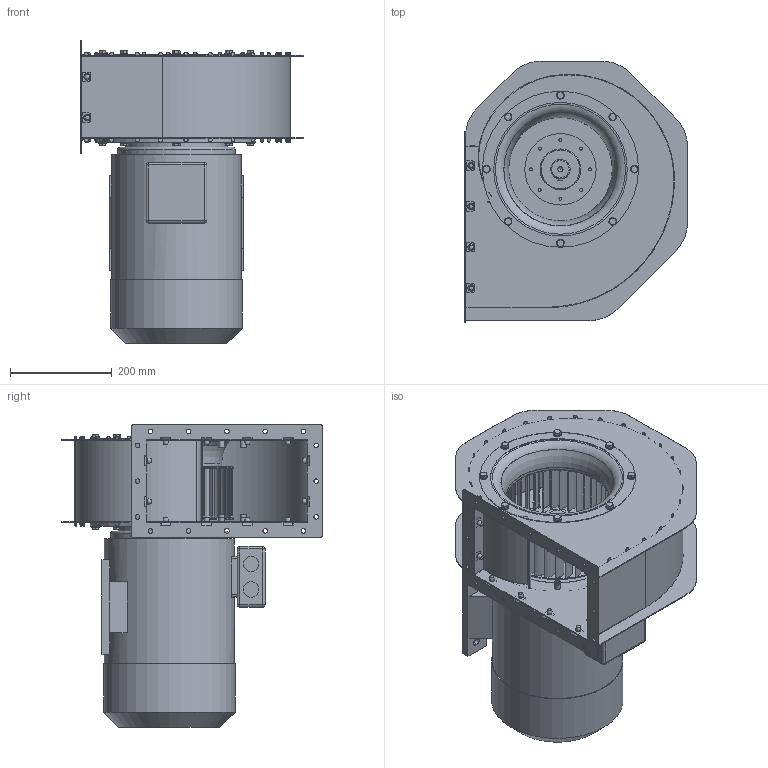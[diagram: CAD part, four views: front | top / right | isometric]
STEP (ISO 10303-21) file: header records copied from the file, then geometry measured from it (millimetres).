
FILE_DESCRIPTION(/* description */ (''),/* implementation_level */ '2;1');
FILE_NAME(/* name */ 'T:\Drawings\Standard Drawings\DATA Web Downloads\3D FILES\HFM-250-102 _ 3D12-0214.stp',/* time_stamp */ '2015-02-18T14:01:51+00:00',/* author */ ('mtinkler'),/* organization */ (''),/* preprocessor_version */ 'ST-DEVELOPER v15.6',/* originating_system */ 'Autodesk Inventor 2015',/* authorisation */ '');
FILE_SCHEMA (('AUTOMOTIVE_DESIGN { 1 0 10303 214 3 1 1 }'));
Length unit declared in the file: centimetre
Products named in the file (1): 3D12-0214
Bounding box: 437 x 512 x 594 mm (x, y, z)
Volume: 22932260.3 mm3; surface area: 2286437.1 mm2
Topology: 73 solids, 73 shells, 2241 faces, 5637 edges, 3659 vertices
Faces by surface type: plane 1270, cylinder 745, cone 149, torus 45, sphere 20, bspline 12
Full cylindrical faces by diameter (mm): 5 x24, 6 x8, 6.3 x12, 6.647 x1, 8 x32, 8.376 x4, 8.5 x16, 9 x16, 10 x4, 10.106 x1, 10.5 x4, 11 x16, 11.1 x16, 19.5 x4, 30.376 x2, 38 x1, 70 x1, 80 x1, 120 x1, 130 x1, 132 x1, 140 x1, 200 x1, 203 x1, 205.4 x1, 210 x1, 230 x1, 250 x2, 255 x3, 258 x1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
Entity records: 69446 total; most frequent: CARTESIAN_POINT 13425, DIRECTION 11298, ORIENTED_EDGE 10546, EDGE_CURVE 5273, AXIS2_PLACEMENT_3D 4175, VERTEX_POINT 3573, EDGE_LOOP 3022, LINE 2948
